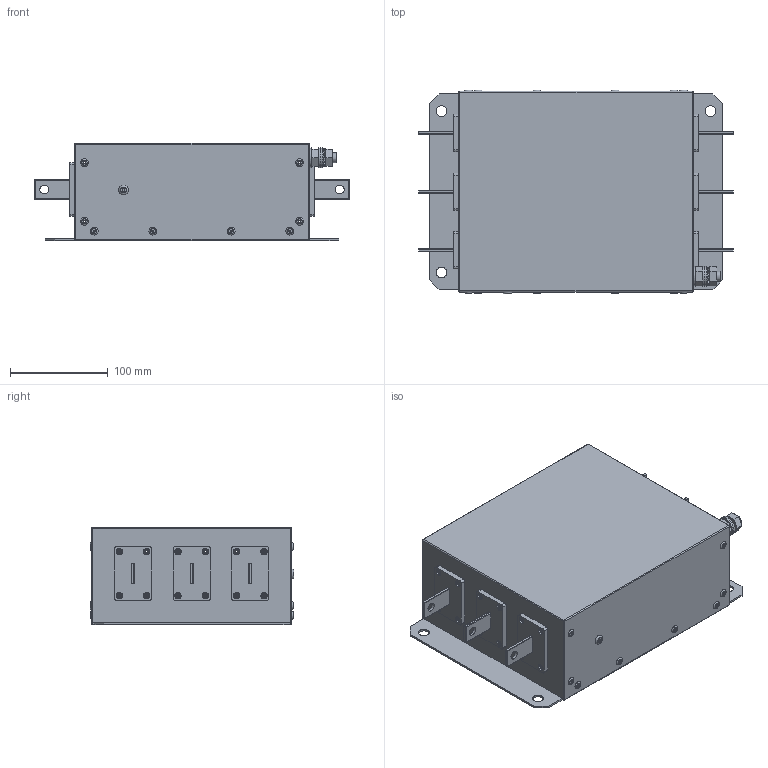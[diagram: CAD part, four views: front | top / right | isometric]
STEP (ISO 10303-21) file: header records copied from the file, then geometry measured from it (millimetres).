
FILE_DESCRIPTION(('STEP AP203'), '1');
FILE_NAME('栖闉罻 _ IEF-132_256-4', '', ('UNSPECIFIED'), ('UNSPECIFIED'), 'ASCON STEP Converter 1.6', 'ASCON Math Kernel', '');
FILE_SCHEMA(('CONFIG_CONTROL_DESIGN'));
Length unit declared in the file: millimetre
Products named in the file (10): IEF-132_256-4
Assembly tree (60 placements, depth 2):
  IEF-132_256-4
    IEF-132_256-4
    IEF-132_256-4  x16
    IEF-132_256-4
    IEF-132_256-4  x6
    IEF-132_256-4  x24
    IEF-132_256-4  x6
    IEF-132_256-4  x3
    IEF-132_256-4  x2
    IEF-132_256-4
Bounding box: 322 x 208.3 x 100 mm (x, y, z)
Volume: 4991321.2 mm3; surface area: 308746.6 mm2
Topology: 60 solids, 60 shells, 686 faces, 1409 edges, 881 vertices
Faces by surface type: plane 358, cylinder 254, torus 41, sphere 28, cone 5
Full cylindrical faces by diameter (mm): 1.7 x24, 2 x16, 2.8 x1, 3 x84, 5 x2, 6.6 x24, 9 x6, 10 x7, 11 x4, 18 x1, 20 x3
Entity records: 7551 total; most frequent: DIRECTION 1100, CARTESIAN_POINT 1085, ORIENTED_EDGE 862, AXIS2_PLACEMENT_3D 434, EDGE_CURVE 431, EDGE_LOOP 334, VERTEX_POINT 307, FACE_BOUND 232
